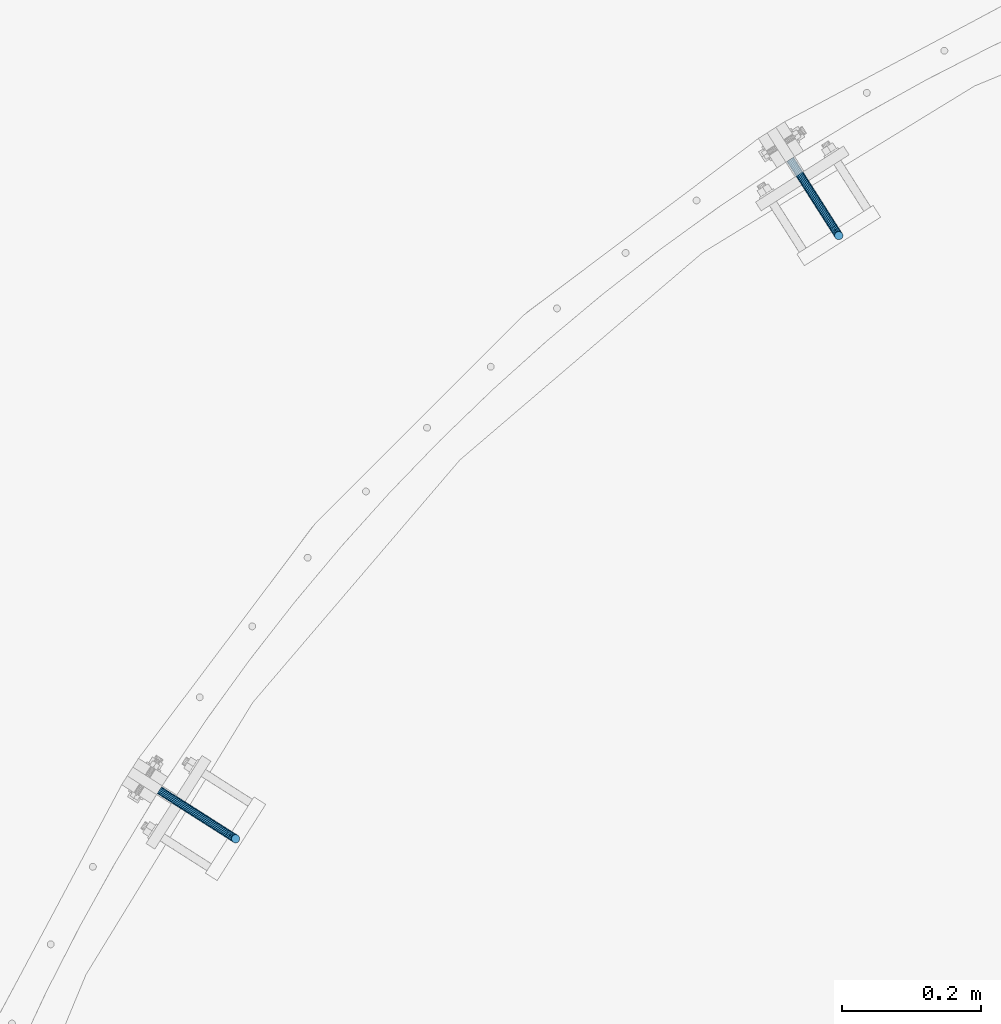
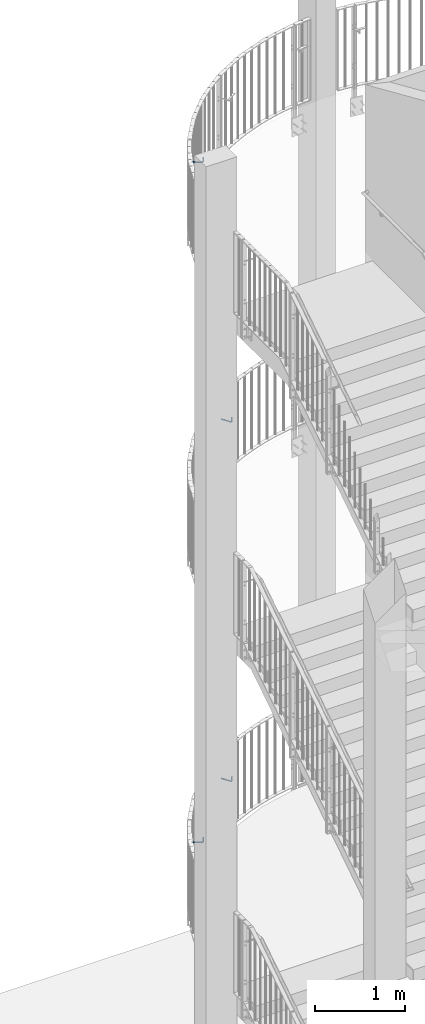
# One storey, part 140 of 296: 4 beams.
"""IFC2X3 building model written with IfcOpenShell, lengths in millimetres."""

from ifc_helpers import new_model, entity, si_unit, converted_unit, origin_with_axes, place, context, project, spatial, faceted_brep, material, element, save


model = new_model("IFC2X3")

# Units and contexts
model_context = context("Model", 3, precision=1e-09, world=origin_with_axes())
ifc_project = project(units=[si_unit("LENGTHUNIT", "METRE", prefix="MILLI"), si_unit("AREAUNIT", "SQUARE_METRE"), si_unit("VOLUMEUNIT", "CUBIC_METRE"), converted_unit("PLANEANGLEUNIT", "DEGREE", entity("IfcPlaneAngleMeasure", 0.01745329), si_unit("PLANEANGLEUNIT", "RADIAN"), dimensions=[0, 0, 0, 0, 0, 0, 0])], contexts=[model_context])

# Site, building, storey
site_placement = place(None, origin_with_axes())
site = spatial("IfcSite", under=ifc_project, at=site_placement, Name="TZD-S?d | Treppenhausgel?nder", CompositionType="ELEMENT")
building_placement = place(site_placement, origin_with_axes())
building = spatial("IfcBuilding", under=site, at=building_placement, Name="Struktur 1", CompositionType="ELEMENT")
storey_placement = place(building_placement, origin_with_axes())
storey = spatial("IfcBuildingStorey", under=building, at=storey_placement, Name="Default Storey", CompositionType="ELEMENT", Elevation=0.0)

# Beams
ifc_material = material(Name="S235JR")
beam_1_placement = place(None, origin_with_axes())
element("IfcBeam", 1, at=beam_1_placement, inside=storey, material=ifc_material, Name="-", ObjectType="-", context=model_context, shape_type="Brep", body=[
    faceted_brep([(1400.456972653, 2285.156972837, 8210.0), (1402.797499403, 2285.105902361, 8210.0), (1404.979407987, 2285.954400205, 8210.0), (1406.670522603, 2287.573290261, 8210.0), (1407.613386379, 2289.716111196, 8210.0), (1407.664456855, 2292.056637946, 8210.0), (1406.815959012, 2294.23854653, 8210.0), (1405.197068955, 2295.929661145, 8210.0), (1403.05424802, 2296.872524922, 8210.0), (1400.713721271, 2296.923595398, 8210.0), (1398.531812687, 2296.075097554, 8210.0), (1396.840698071, 2294.456207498, 8210.0), (1395.897834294, 2292.313386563, 8210.0), (1395.846763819, 2289.972859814, 8210.0), (1396.695261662, 2287.790951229, 8210.0), (1398.314151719, 2286.099836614, 8210.0), (1329.970149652, 2399.421942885, 8139.456722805), (1328.328454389, 2398.376067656, 8140.757359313), (1327.231508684, 2397.677236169, 8142.703899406), (1326.846312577, 2397.431839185, 8145.0), (1327.231508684, 2397.677236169, 8147.296100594), (1328.328454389, 2398.376067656, 8149.242640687), (1329.970149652, 2399.421942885, 8150.543277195), (1331.906661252, 2400.655636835, 8151.0), (1333.843172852, 2401.889330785, 8150.543277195), (1335.484868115, 2402.935206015, 8149.242640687), (1336.58181382, 2403.634037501, 8147.296100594), (1336.967009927, 2403.879434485, 8145.0), (1336.58181382, 2403.634037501, 8142.703899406), (1335.484868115, 2402.935206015, 8140.757359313), (1333.843172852, 2401.889330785, 8139.456722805), (1331.906661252, 2400.655636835, 8139.0), (1400.456972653, 2285.156972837, 8165.0), (1402.797499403, 2285.105902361, 8165.0), (1398.314151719, 2286.099836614, 8165.0), (1396.695261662, 2287.790951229, 8165.0), (1395.846763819, 2289.972859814, 8165.0), (1395.897834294, 2292.313386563, 8165.0), (1396.840698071, 2294.456207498, 8165.0), (1398.531812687, 2296.075097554, 8165.0), (1400.713721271, 2296.923595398, 8165.0), (1403.05424802, 2296.872524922, 8165.0), (1405.197068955, 2295.929661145, 8165.0), (1406.815959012, 2294.23854653, 8165.0), (1407.664456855, 2292.056637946, 8165.0), (1407.613386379, 2289.716111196, 8165.0), (1406.670522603, 2287.573290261, 8165.0), (1404.979407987, 2285.954400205, 8165.0), (1399.465460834, 2286.713334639, 8155.722743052), (1401.752792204, 2286.745764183, 8155.225011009), (1397.402252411, 2287.531231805, 8156.467651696), (1395.877271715, 2289.074938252, 8157.346331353), (1395.122683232, 2291.109438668, 8158.225011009), (1395.253366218, 2293.324998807, 8158.969919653), (1396.249425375, 2295.384319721, 8159.467651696), (1397.959219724, 2296.97388847, 8159.642431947), (1400.122448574, 2297.851707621, 8159.467651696), (1402.409779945, 2297.884137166, 8158.969919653), (1404.472988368, 2297.06624, 8158.225011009), (1405.997969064, 2295.522533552, 8157.346331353), (1406.752557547, 2293.488033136, 8156.467651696), (1406.62187456, 2291.272472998, 8155.722743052), (1405.625815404, 2289.213152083, 8155.225011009), (1403.916021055, 2287.623583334, 8155.050230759), (1396.641874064, 2291.145478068, 8147.857864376), (1398.77771781, 2291.415695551, 8146.938175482), (1394.805382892, 2291.607500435, 8149.234276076), (1393.547833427, 2292.731423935, 8150.857864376), (1393.060676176, 2294.346141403, 8152.481452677), (1393.418076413, 2296.205826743, 8153.857864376), (1394.565623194, 2298.027359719, 8154.777553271), (1396.328612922, 2299.533428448, 8155.100505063), (1398.438646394, 2300.494747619, 8154.777553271), (1400.57449014, 2300.764965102, 8153.857864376), (1402.410981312, 2300.302942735, 8152.481452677), (1403.668530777, 2299.179019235, 8150.857864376), (1404.155688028, 2297.564301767, 8149.234276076), (1403.79828779, 2295.704616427, 8147.857864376), (1402.650741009, 2293.883083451, 8146.938175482), (1400.887751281, 2292.377014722, 8146.615223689), (1392.416077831, 2297.778649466, 8142.602720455), (1394.325204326, 2298.404741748, 8141.401089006), (1390.918893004, 2297.708067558, 8144.401089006), (1390.061582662, 2298.203741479, 8146.52240935), (1389.974664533, 2299.19020937, 8148.643729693), (1390.671371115, 2300.517290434, 8150.442098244), (1392.045635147, 2301.982948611, 8151.643729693), (1393.888237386, 2303.364050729, 8152.065686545), (1395.918658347, 2304.450336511, 8151.643729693), (1397.827784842, 2305.076428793, 8150.442098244), (1399.324969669, 2305.147010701, 8148.643729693), (1400.182280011, 2304.65133678, 8146.52240935), (1400.26919814, 2303.66486889, 8144.401089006), (1399.572491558, 2302.337787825, 8142.602720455), (1398.198227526, 2300.872129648, 8141.401089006), (1396.355625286, 2299.49102753, 8140.979132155), (1387.431411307, 2305.603008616, 8140.757359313), (1389.07310657, 2306.648883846, 8139.456722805), (1386.334465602, 2304.90417713, 8142.703899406), (1385.949269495, 2304.658780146, 8145.0), (1386.334465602, 2304.90417713, 8147.296100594), (1387.431411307, 2305.603008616, 8149.242640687), (1389.07310657, 2306.648883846, 8150.543277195), (1391.00961817, 2307.882577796, 8151.0), (1392.94612977, 2309.116271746, 8150.543277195), (1394.587825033, 2310.162146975, 8149.242640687), (1395.684770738, 2310.860978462, 8147.296100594), (1396.069966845, 2311.106375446, 8145.0), (1395.684770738, 2310.860978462, 8142.703899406), (1394.587825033, 2310.162146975, 8140.757359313), (1392.94612977, 2309.116271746, 8139.456722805), (1391.00961817, 2307.882577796, 8139.0)], [[[0, 1, 2, 3, 4, 5, 6, 7, 8, 9, 10, 11, 12, 13, 14, 15]], [[16, 17, 18, 19, 20, 21, 22, 23, 24, 25, 26, 27, 28, 29, 30, 31]], [[1, 0, 32, 33]], [[0, 15, 34, 32]], [[15, 14, 35, 34]], [[14, 13, 36, 35]], [[13, 12, 37, 36]], [[12, 11, 38, 37]], [[11, 10, 39, 38]], [[10, 9, 40, 39]], [[9, 8, 41, 40]], [[8, 7, 42, 41]], [[7, 6, 43, 42]], [[6, 5, 44, 43]], [[5, 4, 45, 44]], [[4, 3, 46, 45]], [[3, 2, 47, 46]], [[2, 1, 33, 47]], [[33, 32, 48, 49]], [[32, 34, 50, 48]], [[34, 35, 51, 50]], [[35, 36, 52, 51]], [[36, 37, 53, 52]], [[37, 38, 54, 53]], [[38, 39, 55, 54]], [[39, 40, 56, 55]], [[40, 41, 57, 56]], [[41, 42, 58, 57]], [[42, 43, 59, 58]], [[43, 44, 60, 59]], [[44, 45, 61, 60]], [[45, 46, 62, 61]], [[46, 47, 63, 62]], [[47, 33, 49, 63]], [[49, 48, 64, 65]], [[48, 50, 66, 64]], [[50, 51, 67, 66]], [[51, 52, 68, 67]], [[52, 53, 69, 68]], [[53, 54, 70, 69]], [[54, 55, 71, 70]], [[55, 56, 72, 71]], [[56, 57, 73, 72]], [[57, 58, 74, 73]], [[58, 59, 75, 74]], [[59, 60, 76, 75]], [[60, 61, 77, 76]], [[61, 62, 78, 77]], [[62, 63, 79, 78]], [[63, 49, 65, 79]], [[65, 64, 80, 81]], [[64, 66, 82, 80]], [[66, 67, 83, 82]], [[67, 68, 84, 83]], [[68, 69, 85, 84]], [[69, 70, 86, 85]], [[70, 71, 87, 86]], [[71, 72, 88, 87]], [[72, 73, 89, 88]], [[73, 74, 90, 89]], [[74, 75, 91, 90]], [[75, 76, 92, 91]], [[76, 77, 93, 92]], [[77, 78, 94, 93]], [[78, 79, 95, 94]], [[79, 65, 81, 95]], [[81, 80, 96, 97]], [[80, 82, 98, 96]], [[82, 83, 99, 98]], [[83, 84, 100, 99]], [[84, 85, 101, 100]], [[85, 86, 102, 101]], [[86, 87, 103, 102]], [[87, 88, 104, 103]], [[88, 89, 105, 104]], [[89, 90, 106, 105]], [[90, 91, 107, 106]], [[91, 92, 108, 107]], [[92, 93, 109, 108]], [[93, 94, 110, 109]], [[94, 95, 111, 110]], [[95, 81, 97, 111]], [[97, 96, 17, 16]], [[96, 98, 18, 17]], [[98, 99, 19, 18]], [[99, 100, 20, 19]], [[100, 101, 21, 20]], [[101, 102, 22, 21]], [[102, 103, 23, 22]], [[103, 104, 24, 23]], [[104, 105, 25, 24]], [[105, 106, 26, 25]], [[106, 107, 27, 26]], [[107, 108, 28, 27]], [[108, 109, 29, 28]], [[109, 110, 30, 29]], [[110, 111, 31, 30]], [[111, 97, 16, 31]]]),
])
beam_2_placement = place(None, origin_with_axes())
element("IfcBeam", 2, at=beam_2_placement, inside=storey, material=ifc_material, Name="-", ObjectType="-", context=model_context, shape_type="Brep", body=[
    faceted_brep([(1400.456972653, 2285.156972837, 3310.0), (1402.797499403, 2285.105902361, 3310.0), (1404.979407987, 2285.954400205, 3310.0), (1406.670522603, 2287.573290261, 3310.0), (1407.613386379, 2289.716111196, 3310.0), (1407.664456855, 2292.056637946, 3310.0), (1406.815959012, 2294.23854653, 3310.0), (1405.197068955, 2295.929661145, 3310.0), (1403.05424802, 2296.872524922, 3310.0), (1400.713721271, 2296.923595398, 3310.0), (1398.531812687, 2296.075097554, 3310.0), (1396.840698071, 2294.456207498, 3310.0), (1395.897834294, 2292.313386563, 3310.0), (1395.846763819, 2289.972859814, 3310.0), (1396.695261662, 2287.790951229, 3310.0), (1398.314151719, 2286.099836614, 3310.0), (1329.970149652, 2399.421942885, 3239.456722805), (1328.328454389, 2398.376067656, 3240.757359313), (1327.231508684, 2397.677236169, 3242.703899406), (1326.846312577, 2397.431839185, 3245.0), (1327.231508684, 2397.677236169, 3247.296100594), (1328.328454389, 2398.376067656, 3249.242640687), (1329.970149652, 2399.421942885, 3250.543277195), (1331.906661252, 2400.655636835, 3251.0), (1333.843172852, 2401.889330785, 3250.543277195), (1335.484868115, 2402.935206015, 3249.242640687), (1336.58181382, 2403.634037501, 3247.296100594), (1336.967009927, 2403.879434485, 3245.0), (1336.58181382, 2403.634037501, 3242.703899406), (1335.484868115, 2402.935206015, 3240.757359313), (1333.843172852, 2401.889330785, 3239.456722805), (1331.906661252, 2400.655636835, 3239.0), (1400.456972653, 2285.156972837, 3265.0), (1402.797499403, 2285.105902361, 3265.0), (1398.314151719, 2286.099836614, 3265.0), (1396.695261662, 2287.790951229, 3265.0), (1395.846763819, 2289.972859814, 3265.0), (1395.897834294, 2292.313386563, 3265.0), (1396.840698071, 2294.456207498, 3265.0), (1398.531812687, 2296.075097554, 3265.0), (1400.713721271, 2296.923595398, 3265.0), (1403.05424802, 2296.872524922, 3265.0), (1405.197068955, 2295.929661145, 3265.0), (1406.815959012, 2294.23854653, 3265.0), (1407.664456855, 2292.056637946, 3265.0), (1407.613386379, 2289.716111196, 3265.0), (1406.670522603, 2287.573290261, 3265.0), (1404.979407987, 2285.954400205, 3265.0), (1399.465460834, 2286.713334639, 3255.722743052), (1401.752792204, 2286.745764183, 3255.225011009), (1397.402252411, 2287.531231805, 3256.467651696), (1395.877271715, 2289.074938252, 3257.346331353), (1395.122683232, 2291.109438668, 3258.225011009), (1395.253366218, 2293.324998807, 3258.969919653), (1396.249425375, 2295.384319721, 3259.467651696), (1397.959219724, 2296.97388847, 3259.642431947), (1400.122448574, 2297.851707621, 3259.467651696), (1402.409779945, 2297.884137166, 3258.969919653), (1404.472988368, 2297.06624, 3258.225011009), (1405.997969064, 2295.522533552, 3257.346331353), (1406.752557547, 2293.488033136, 3256.467651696), (1406.62187456, 2291.272472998, 3255.722743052), (1405.625815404, 2289.213152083, 3255.225011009), (1403.916021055, 2287.623583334, 3255.050230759), (1396.641874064, 2291.145478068, 3247.857864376), (1398.77771781, 2291.415695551, 3246.938175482), (1394.805382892, 2291.607500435, 3249.234276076), (1393.547833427, 2292.731423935, 3250.857864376), (1393.060676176, 2294.346141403, 3252.481452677), (1393.418076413, 2296.205826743, 3253.857864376), (1394.565623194, 2298.027359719, 3254.777553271), (1396.328612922, 2299.533428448, 3255.100505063), (1398.438646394, 2300.494747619, 3254.777553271), (1400.57449014, 2300.764965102, 3253.857864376), (1402.410981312, 2300.302942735, 3252.481452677), (1403.668530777, 2299.179019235, 3250.857864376), (1404.155688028, 2297.564301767, 3249.234276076), (1403.79828779, 2295.704616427, 3247.857864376), (1402.650741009, 2293.883083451, 3246.938175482), (1400.887751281, 2292.377014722, 3246.615223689), (1392.416077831, 2297.778649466, 3242.602720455), (1394.325204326, 2298.404741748, 3241.401089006), (1390.918893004, 2297.708067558, 3244.401089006), (1390.061582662, 2298.203741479, 3246.52240935), (1389.974664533, 2299.19020937, 3248.643729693), (1390.671371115, 2300.517290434, 3250.442098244), (1392.045635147, 2301.982948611, 3251.643729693), (1393.888237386, 2303.364050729, 3252.065686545), (1395.918658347, 2304.450336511, 3251.643729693), (1397.827784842, 2305.076428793, 3250.442098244), (1399.324969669, 2305.147010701, 3248.643729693), (1400.182280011, 2304.65133678, 3246.52240935), (1400.26919814, 2303.66486889, 3244.401089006), (1399.572491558, 2302.337787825, 3242.602720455), (1398.198227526, 2300.872129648, 3241.401089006), (1396.355625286, 2299.49102753, 3240.979132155), (1387.431411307, 2305.603008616, 3240.757359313), (1389.07310657, 2306.648883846, 3239.456722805), (1386.334465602, 2304.90417713, 3242.703899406), (1385.949269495, 2304.658780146, 3245.0), (1386.334465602, 2304.90417713, 3247.296100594), (1387.431411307, 2305.603008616, 3249.242640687), (1389.07310657, 2306.648883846, 3250.543277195), (1391.00961817, 2307.882577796, 3251.0), (1392.94612977, 2309.116271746, 3250.543277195), (1394.587825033, 2310.162146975, 3249.242640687), (1395.684770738, 2310.860978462, 3247.296100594), (1396.069966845, 2311.106375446, 3245.0), (1395.684770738, 2310.860978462, 3242.703899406), (1394.587825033, 2310.162146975, 3240.757359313), (1392.94612977, 2309.116271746, 3239.456722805), (1391.00961817, 2307.882577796, 3239.0)], [[[0, 1, 2, 3, 4, 5, 6, 7, 8, 9, 10, 11, 12, 13, 14, 15]], [[16, 17, 18, 19, 20, 21, 22, 23, 24, 25, 26, 27, 28, 29, 30, 31]], [[1, 0, 32, 33]], [[0, 15, 34, 32]], [[15, 14, 35, 34]], [[14, 13, 36, 35]], [[13, 12, 37, 36]], [[12, 11, 38, 37]], [[11, 10, 39, 38]], [[10, 9, 40, 39]], [[9, 8, 41, 40]], [[8, 7, 42, 41]], [[7, 6, 43, 42]], [[6, 5, 44, 43]], [[5, 4, 45, 44]], [[4, 3, 46, 45]], [[3, 2, 47, 46]], [[2, 1, 33, 47]], [[33, 32, 48, 49]], [[32, 34, 50, 48]], [[34, 35, 51, 50]], [[35, 36, 52, 51]], [[36, 37, 53, 52]], [[37, 38, 54, 53]], [[38, 39, 55, 54]], [[39, 40, 56, 55]], [[40, 41, 57, 56]], [[41, 42, 58, 57]], [[42, 43, 59, 58]], [[43, 44, 60, 59]], [[44, 45, 61, 60]], [[45, 46, 62, 61]], [[46, 47, 63, 62]], [[47, 33, 49, 63]], [[49, 48, 64, 65]], [[48, 50, 66, 64]], [[50, 51, 67, 66]], [[51, 52, 68, 67]], [[52, 53, 69, 68]], [[53, 54, 70, 69]], [[54, 55, 71, 70]], [[55, 56, 72, 71]], [[56, 57, 73, 72]], [[57, 58, 74, 73]], [[58, 59, 75, 74]], [[59, 60, 76, 75]], [[60, 61, 77, 76]], [[61, 62, 78, 77]], [[62, 63, 79, 78]], [[63, 49, 65, 79]], [[65, 64, 80, 81]], [[64, 66, 82, 80]], [[66, 67, 83, 82]], [[67, 68, 84, 83]], [[68, 69, 85, 84]], [[69, 70, 86, 85]], [[70, 71, 87, 86]], [[71, 72, 88, 87]], [[72, 73, 89, 88]], [[73, 74, 90, 89]], [[74, 75, 91, 90]], [[75, 76, 92, 91]], [[76, 77, 93, 92]], [[77, 78, 94, 93]], [[78, 79, 95, 94]], [[79, 65, 81, 95]], [[81, 80, 96, 97]], [[80, 82, 98, 96]], [[82, 83, 99, 98]], [[83, 84, 100, 99]], [[84, 85, 101, 100]], [[85, 86, 102, 101]], [[86, 87, 103, 102]], [[87, 88, 104, 103]], [[88, 89, 105, 104]], [[89, 90, 106, 105]], [[90, 91, 107, 106]], [[91, 92, 108, 107]], [[92, 93, 109, 108]], [[93, 94, 110, 109]], [[94, 95, 111, 110]], [[95, 81, 97, 111]], [[97, 96, 17, 16]], [[96, 98, 18, 17]], [[98, 99, 19, 18]], [[99, 100, 20, 19]], [[100, 101, 21, 20]], [[101, 102, 22, 21]], [[102, 103, 23, 22]], [[103, 104, 24, 23]], [[104, 105, 25, 24]], [[105, 106, 26, 25]], [[106, 107, 27, 26]], [[107, 108, 28, 27]], [[108, 109, 29, 28]], [[109, 110, 30, 29]], [[110, 111, 31, 30]], [[111, 97, 16, 31]]]),
])
beam_3_placement = place(None, origin_with_axes())
element("IfcBeam", 3, at=beam_3_placement, inside=storey, material=ifc_material, Name="-", ObjectType="-", context=model_context, shape_type="Brep", body=[
    faceted_brep([(535.283888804, 1417.386613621, 3310.0), (537.426709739, 1418.329477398, 3310.0), (539.045599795, 1420.020592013, 3310.0), (539.894097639, 1422.202500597, 3310.0), (539.843027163, 1424.543027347, 3310.0), (538.900163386, 1426.685848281, 3310.0), (537.209048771, 1428.304738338, 3310.0), (535.027140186, 1429.153236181, 3310.0), (532.686613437, 1429.102165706, 3310.0), (530.543792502, 1428.159301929, 3310.0), (528.924902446, 1426.468187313, 3310.0), (528.076404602, 1424.286278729, 3310.0), (528.127475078, 1421.94575198, 3310.0), (529.070338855, 1419.802931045, 3310.0), (530.76145347, 1418.184040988, 3310.0), (532.943362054, 1417.335543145, 3310.0), (423.110669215, 1491.156827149, 3239.456722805), (422.064793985, 1489.515131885, 3240.757359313), (421.365962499, 1488.41818618, 3242.703899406), (421.120565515, 1488.032990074, 3245.0), (421.365962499, 1488.41818618, 3247.296100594), (422.064793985, 1489.515131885, 3249.242640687), (423.110669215, 1491.156827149, 3250.543277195), (424.344363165, 1493.093338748, 3251.0), (425.578057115, 1495.029850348, 3250.543277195), (426.623932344, 1496.671545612, 3249.242640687), (427.322763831, 1497.768491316, 3247.296100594), (427.568160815, 1498.153687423, 3245.0), (427.322763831, 1497.768491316, 3242.703899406), (426.623932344, 1496.671545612, 3240.757359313), (425.578057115, 1495.029850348, 3239.456722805), (424.344363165, 1493.093338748, 3239.0), (535.283888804, 1417.386613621, 3265.0), (537.426709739, 1418.329477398, 3265.0), (532.943362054, 1417.335543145, 3265.0), (530.76145347, 1418.184040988, 3265.0), (529.070338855, 1419.802931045, 3265.0), (528.127475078, 1421.94575198, 3265.0), (528.076404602, 1424.286278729, 3265.0), (528.924902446, 1426.468187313, 3265.0), (530.543792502, 1428.159301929, 3265.0), (532.686613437, 1429.102165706, 3265.0), (535.027140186, 1429.153236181, 3265.0), (537.209048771, 1428.304738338, 3265.0), (538.900163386, 1426.685848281, 3265.0), (539.843027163, 1424.543027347, 3265.0), (539.894097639, 1422.202500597, 3265.0), (539.045599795, 1420.020592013, 3265.0), (533.727527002, 1418.37812544, 3255.722743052), (535.786847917, 1419.374184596, 3255.225011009), (531.511966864, 1418.247442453, 3256.467651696), (529.477466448, 1419.002030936, 3257.346331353), (527.93376, 1420.527011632, 3258.225011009), (527.115862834, 1422.590220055, 3258.969919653), (527.148292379, 1424.877551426, 3259.467651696), (528.02611153, 1427.040780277, 3259.642431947), (529.615680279, 1428.750574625, 3259.467651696), (531.675001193, 1429.746633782, 3258.969919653), (533.890561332, 1429.877316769, 3258.225011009), (535.925061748, 1429.122728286, 3257.346331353), (537.468768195, 1427.597747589, 3256.467651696), (538.286665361, 1425.534539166, 3255.722743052), (538.254235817, 1423.247207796, 3255.225011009), (537.376416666, 1421.083978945, 3255.050230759), (529.295383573, 1421.20171221, 3247.857864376), (531.116916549, 1422.349258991, 3246.938175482), (527.435698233, 1420.844311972, 3249.234276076), (525.820980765, 1421.331469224, 3250.857864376), (524.697057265, 1422.589018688, 3252.481452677), (524.235034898, 1424.42550986, 3253.857864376), (524.505252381, 1426.561353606, 3254.777553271), (525.466571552, 1428.671387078, 3255.100505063), (526.972640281, 1430.434376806, 3254.777553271), (528.794173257, 1431.581923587, 3253.857864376), (530.653858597, 1431.939323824, 3252.481452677), (532.268576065, 1431.452166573, 3250.857864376), (533.392499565, 1430.194617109, 3249.234276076), (533.854521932, 1428.358125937, 3247.857864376), (533.584304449, 1426.22228219, 3246.938175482), (532.622985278, 1424.112248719, 3246.615223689), (522.662212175, 1425.427508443, 3242.602720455), (524.127870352, 1426.801772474, 3241.401089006), (521.33513111, 1424.73080186, 3244.401089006), (520.34866322, 1424.817719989, 3246.52240935), (519.852989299, 1425.675030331, 3248.643729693), (519.923571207, 1427.172215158, 3250.442098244), (520.549663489, 1429.081341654, 3251.643729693), (521.635949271, 1431.111762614, 3252.065686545), (523.017051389, 1432.954364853, 3251.643729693), (524.482709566, 1434.328628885, 3250.442098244), (525.80979063, 1435.025335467, 3248.643729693), (526.796258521, 1434.938417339, 3246.52240935), (527.291932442, 1434.081106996, 3244.401089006), (527.221350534, 1432.583922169, 3242.602720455), (526.595258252, 1430.674795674, 3241.401089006), (525.50897247, 1428.644374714, 3240.979132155), (514.837853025, 1430.412174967, 3240.757359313), (515.883728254, 1432.05387023, 3239.456722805), (514.139021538, 1429.315229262, 3242.703899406), (513.893624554, 1428.930033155, 3245.0), (514.139021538, 1429.315229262, 3247.296100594), (514.837853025, 1430.412174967, 3249.242640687), (515.883728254, 1432.05387023, 3250.543277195), (517.117422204, 1433.99038183, 3251.0), (518.351116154, 1435.92689343, 3250.543277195), (519.396991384, 1437.568588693, 3249.242640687), (520.09582287, 1438.665534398, 3247.296100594), (520.341219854, 1439.050730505, 3245.0), (520.09582287, 1438.665534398, 3242.703899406), (519.396991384, 1437.568588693, 3240.757359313), (518.351116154, 1435.92689343, 3239.456722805), (517.117422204, 1433.99038183, 3239.0)], [[[0, 1, 2, 3, 4, 5, 6, 7, 8, 9, 10, 11, 12, 13, 14, 15]], [[16, 17, 18, 19, 20, 21, 22, 23, 24, 25, 26, 27, 28, 29, 30, 31]], [[1, 0, 32, 33]], [[0, 15, 34, 32]], [[15, 14, 35, 34]], [[14, 13, 36, 35]], [[13, 12, 37, 36]], [[12, 11, 38, 37]], [[11, 10, 39, 38]], [[10, 9, 40, 39]], [[9, 8, 41, 40]], [[8, 7, 42, 41]], [[7, 6, 43, 42]], [[6, 5, 44, 43]], [[5, 4, 45, 44]], [[4, 3, 46, 45]], [[3, 2, 47, 46]], [[2, 1, 33, 47]], [[33, 32, 48, 49]], [[32, 34, 50, 48]], [[34, 35, 51, 50]], [[35, 36, 52, 51]], [[36, 37, 53, 52]], [[37, 38, 54, 53]], [[38, 39, 55, 54]], [[39, 40, 56, 55]], [[40, 41, 57, 56]], [[41, 42, 58, 57]], [[42, 43, 59, 58]], [[43, 44, 60, 59]], [[44, 45, 61, 60]], [[45, 46, 62, 61]], [[46, 47, 63, 62]], [[47, 33, 49, 63]], [[49, 48, 64, 65]], [[48, 50, 66, 64]], [[50, 51, 67, 66]], [[51, 52, 68, 67]], [[52, 53, 69, 68]], [[53, 54, 70, 69]], [[54, 55, 71, 70]], [[55, 56, 72, 71]], [[56, 57, 73, 72]], [[57, 58, 74, 73]], [[58, 59, 75, 74]], [[59, 60, 76, 75]], [[60, 61, 77, 76]], [[61, 62, 78, 77]], [[62, 63, 79, 78]], [[63, 49, 65, 79]], [[65, 64, 80, 81]], [[64, 66, 82, 80]], [[66, 67, 83, 82]], [[67, 68, 84, 83]], [[68, 69, 85, 84]], [[69, 70, 86, 85]], [[70, 71, 87, 86]], [[71, 72, 88, 87]], [[72, 73, 89, 88]], [[73, 74, 90, 89]], [[74, 75, 91, 90]], [[75, 76, 92, 91]], [[76, 77, 93, 92]], [[77, 78, 94, 93]], [[78, 79, 95, 94]], [[79, 65, 81, 95]], [[81, 80, 96, 97]], [[80, 82, 98, 96]], [[82, 83, 99, 98]], [[83, 84, 100, 99]], [[84, 85, 101, 100]], [[85, 86, 102, 101]], [[86, 87, 103, 102]], [[87, 88, 104, 103]], [[88, 89, 105, 104]], [[89, 90, 106, 105]], [[90, 91, 107, 106]], [[91, 92, 108, 107]], [[92, 93, 109, 108]], [[93, 94, 110, 109]], [[94, 95, 111, 110]], [[95, 81, 97, 111]], [[97, 96, 17, 16]], [[96, 98, 18, 17]], [[98, 99, 19, 18]], [[99, 100, 20, 19]], [[100, 101, 21, 20]], [[101, 102, 22, 21]], [[102, 103, 23, 22]], [[103, 104, 24, 23]], [[104, 105, 25, 24]], [[105, 106, 26, 25]], [[106, 107, 27, 26]], [[107, 108, 28, 27]], [[108, 109, 29, 28]], [[109, 110, 30, 29]], [[110, 111, 31, 30]], [[111, 97, 16, 31]]]),
])
beam_4_placement = place(None, origin_with_axes())
element("IfcBeam", 4, at=beam_4_placement, inside=storey, material=ifc_material, Name="-", ObjectType="-", context=model_context, shape_type="Brep", body=[
    faceted_brep([(535.283888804, 1417.386613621, 12585.0), (537.426709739, 1418.329477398, 12585.0), (539.045599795, 1420.020592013, 12585.0), (539.894097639, 1422.202500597, 12585.0), (539.843027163, 1424.543027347, 12585.0), (538.900163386, 1426.685848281, 12585.0), (537.209048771, 1428.304738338, 12585.0), (535.027140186, 1429.153236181, 12585.0), (532.686613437, 1429.102165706, 12585.0), (530.543792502, 1428.159301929, 12585.0), (528.924902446, 1426.468187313, 12585.0), (528.076404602, 1424.286278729, 12585.0), (528.127475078, 1421.94575198, 12585.0), (529.070338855, 1419.802931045, 12585.0), (530.76145347, 1418.184040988, 12585.0), (532.943362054, 1417.335543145, 12585.0), (423.110669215, 1491.156827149, 12514.456722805), (422.064793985, 1489.515131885, 12515.757359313), (421.365962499, 1488.41818618, 12517.703899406), (421.120565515, 1488.032990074, 12520.0), (421.365962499, 1488.41818618, 12522.296100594), (422.064793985, 1489.515131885, 12524.242640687), (423.110669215, 1491.156827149, 12525.543277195), (424.344363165, 1493.093338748, 12526.0), (425.578057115, 1495.029850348, 12525.543277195), (426.623932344, 1496.671545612, 12524.242640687), (427.322763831, 1497.768491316, 12522.296100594), (427.568160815, 1498.153687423, 12520.0), (427.322763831, 1497.768491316, 12517.703899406), (426.623932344, 1496.671545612, 12515.757359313), (425.578057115, 1495.029850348, 12514.456722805), (424.344363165, 1493.093338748, 12514.0), (535.283888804, 1417.386613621, 12540.0), (537.426709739, 1418.329477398, 12540.0), (532.943362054, 1417.335543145, 12540.0), (530.76145347, 1418.184040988, 12540.0), (529.070338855, 1419.802931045, 12540.0), (528.127475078, 1421.94575198, 12540.0), (528.076404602, 1424.286278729, 12540.0), (528.924902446, 1426.468187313, 12540.0), (530.543792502, 1428.159301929, 12540.0), (532.686613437, 1429.102165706, 12540.0), (535.027140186, 1429.153236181, 12540.0), (537.209048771, 1428.304738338, 12540.0), (538.900163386, 1426.685848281, 12540.0), (539.843027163, 1424.543027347, 12540.0), (539.894097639, 1422.202500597, 12540.0), (539.045599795, 1420.020592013, 12540.0), (533.727527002, 1418.37812544, 12530.722743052), (535.786847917, 1419.374184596, 12530.225011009), (531.511966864, 1418.247442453, 12531.467651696), (529.477466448, 1419.002030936, 12532.346331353), (527.93376, 1420.527011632, 12533.225011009), (527.115862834, 1422.590220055, 12533.969919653), (527.148292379, 1424.877551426, 12534.467651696), (528.02611153, 1427.040780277, 12534.642431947), (529.615680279, 1428.750574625, 12534.467651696), (531.675001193, 1429.746633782, 12533.969919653), (533.890561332, 1429.877316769, 12533.225011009), (535.925061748, 1429.122728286, 12532.346331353), (537.468768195, 1427.597747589, 12531.467651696), (538.286665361, 1425.534539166, 12530.722743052), (538.254235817, 1423.247207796, 12530.225011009), (537.376416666, 1421.083978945, 12530.050230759), (529.295383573, 1421.20171221, 12522.857864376), (531.116916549, 1422.349258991, 12521.938175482), (527.435698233, 1420.844311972, 12524.234276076), (525.820980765, 1421.331469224, 12525.857864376), (524.697057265, 1422.589018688, 12527.481452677), (524.235034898, 1424.42550986, 12528.857864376), (524.505252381, 1426.561353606, 12529.777553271), (525.466571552, 1428.671387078, 12530.100505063), (526.972640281, 1430.434376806, 12529.777553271), (528.794173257, 1431.581923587, 12528.857864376), (530.653858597, 1431.939323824, 12527.481452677), (532.268576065, 1431.452166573, 12525.857864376), (533.392499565, 1430.194617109, 12524.234276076), (533.854521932, 1428.358125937, 12522.857864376), (533.584304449, 1426.22228219, 12521.938175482), (532.622985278, 1424.112248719, 12521.615223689), (522.662212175, 1425.427508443, 12517.602720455), (524.127870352, 1426.801772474, 12516.401089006), (521.33513111, 1424.73080186, 12519.401089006), (520.34866322, 1424.817719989, 12521.52240935), (519.852989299, 1425.675030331, 12523.643729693), (519.923571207, 1427.172215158, 12525.442098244), (520.549663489, 1429.081341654, 12526.643729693), (521.635949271, 1431.111762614, 12527.065686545), (523.017051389, 1432.954364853, 12526.643729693), (524.482709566, 1434.328628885, 12525.442098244), (525.80979063, 1435.025335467, 12523.643729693), (526.796258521, 1434.938417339, 12521.52240935), (527.291932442, 1434.081106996, 12519.401089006), (527.221350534, 1432.583922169, 12517.602720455), (526.595258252, 1430.674795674, 12516.401089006), (525.50897247, 1428.644374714, 12515.979132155), (514.837853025, 1430.412174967, 12515.757359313), (515.883728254, 1432.05387023, 12514.456722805), (514.139021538, 1429.315229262, 12517.703899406), (513.893624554, 1428.930033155, 12520.0), (514.139021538, 1429.315229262, 12522.296100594), (514.837853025, 1430.412174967, 12524.242640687), (515.883728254, 1432.05387023, 12525.543277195), (517.117422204, 1433.99038183, 12526.0), (518.351116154, 1435.92689343, 12525.543277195), (519.396991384, 1437.568588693, 12524.242640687), (520.09582287, 1438.665534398, 12522.296100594), (520.341219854, 1439.050730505, 12520.0), (520.09582287, 1438.665534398, 12517.703899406), (519.396991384, 1437.568588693, 12515.757359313), (518.351116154, 1435.92689343, 12514.456722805), (517.117422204, 1433.99038183, 12514.0)], [[[0, 1, 2, 3, 4, 5, 6, 7, 8, 9, 10, 11, 12, 13, 14, 15]], [[16, 17, 18, 19, 20, 21, 22, 23, 24, 25, 26, 27, 28, 29, 30, 31]], [[1, 0, 32, 33]], [[0, 15, 34, 32]], [[15, 14, 35, 34]], [[14, 13, 36, 35]], [[13, 12, 37, 36]], [[12, 11, 38, 37]], [[11, 10, 39, 38]], [[10, 9, 40, 39]], [[9, 8, 41, 40]], [[8, 7, 42, 41]], [[7, 6, 43, 42]], [[6, 5, 44, 43]], [[5, 4, 45, 44]], [[4, 3, 46, 45]], [[3, 2, 47, 46]], [[2, 1, 33, 47]], [[33, 32, 48, 49]], [[32, 34, 50, 48]], [[34, 35, 51, 50]], [[35, 36, 52, 51]], [[36, 37, 53, 52]], [[37, 38, 54, 53]], [[38, 39, 55, 54]], [[39, 40, 56, 55]], [[40, 41, 57, 56]], [[41, 42, 58, 57]], [[42, 43, 59, 58]], [[43, 44, 60, 59]], [[44, 45, 61, 60]], [[45, 46, 62, 61]], [[46, 47, 63, 62]], [[47, 33, 49, 63]], [[49, 48, 64, 65]], [[48, 50, 66, 64]], [[50, 51, 67, 66]], [[51, 52, 68, 67]], [[52, 53, 69, 68]], [[53, 54, 70, 69]], [[54, 55, 71, 70]], [[55, 56, 72, 71]], [[56, 57, 73, 72]], [[57, 58, 74, 73]], [[58, 59, 75, 74]], [[59, 60, 76, 75]], [[60, 61, 77, 76]], [[61, 62, 78, 77]], [[62, 63, 79, 78]], [[63, 49, 65, 79]], [[65, 64, 80, 81]], [[64, 66, 82, 80]], [[66, 67, 83, 82]], [[67, 68, 84, 83]], [[68, 69, 85, 84]], [[69, 70, 86, 85]], [[70, 71, 87, 86]], [[71, 72, 88, 87]], [[72, 73, 89, 88]], [[73, 74, 90, 89]], [[74, 75, 91, 90]], [[75, 76, 92, 91]], [[76, 77, 93, 92]], [[77, 78, 94, 93]], [[78, 79, 95, 94]], [[79, 65, 81, 95]], [[81, 80, 96, 97]], [[80, 82, 98, 96]], [[82, 83, 99, 98]], [[83, 84, 100, 99]], [[84, 85, 101, 100]], [[85, 86, 102, 101]], [[86, 87, 103, 102]], [[87, 88, 104, 103]], [[88, 89, 105, 104]], [[89, 90, 106, 105]], [[90, 91, 107, 106]], [[91, 92, 108, 107]], [[92, 93, 109, 108]], [[93, 94, 110, 109]], [[94, 95, 111, 110]], [[95, 81, 97, 111]], [[97, 96, 17, 16]], [[96, 98, 18, 17]], [[98, 99, 19, 18]], [[99, 100, 20, 19]], [[100, 101, 21, 20]], [[101, 102, 22, 21]], [[102, 103, 23, 22]], [[103, 104, 24, 23]], [[104, 105, 25, 24]], [[105, 106, 26, 25]], [[106, 107, 27, 26]], [[107, 108, 28, 27]], [[108, 109, 29, 28]], [[109, 110, 30, 29]], [[110, 111, 31, 30]], [[111, 97, 16, 31]]]),
])

save(model, "model.ifc")
